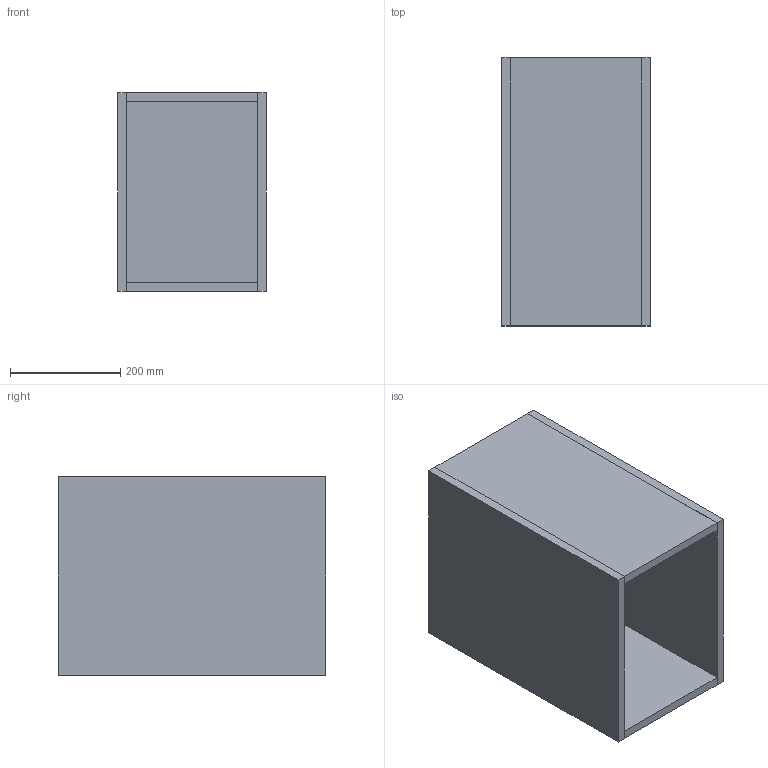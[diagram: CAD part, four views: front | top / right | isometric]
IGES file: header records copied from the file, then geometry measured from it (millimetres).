
Start section: Data from Parasolid IGES Translator 19.0.9, Copyright(c) 2006 Siemens PL M Software. All Rights Reserved.
Global section: file name: noorth-SI-H 36 D 51 W 27_8376.igs; native system: By Siemens PLM Incorporated; preprocessor: XPlus GENERIC/IGES 19.0.9; author: Noname; organization: Noname; date: 20200601.095705; units: metre
Bounding box: 270.01 x 486.06 x 360 mm (x, y, z)
Volume: 9523921.1 mm3; surface area: 1422430.5 mm2
Topology: 5 solids, 5 shells, 30 faces, 60 edges, 40 vertices
Faces by surface type: plane 30
